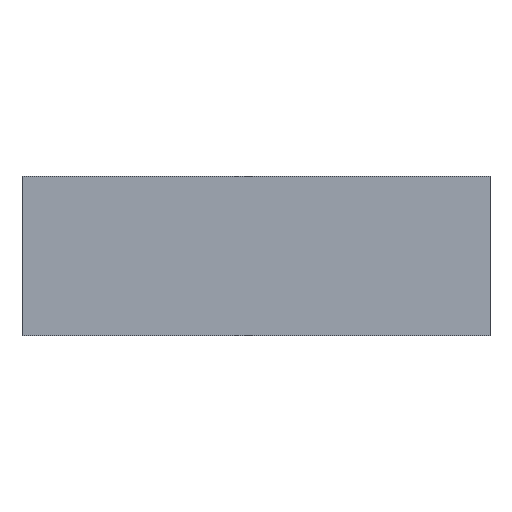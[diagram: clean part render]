
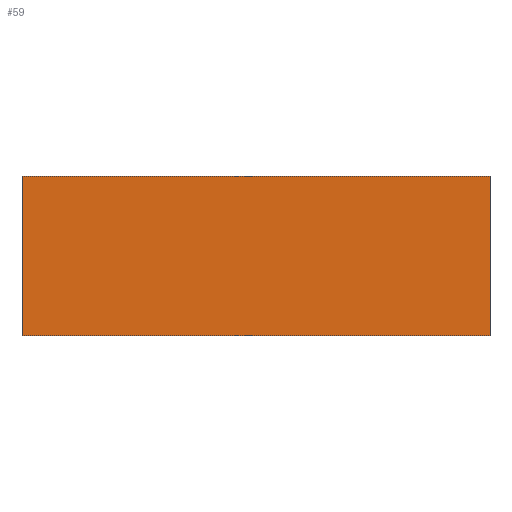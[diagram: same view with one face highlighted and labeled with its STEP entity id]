
A CAD part, top view. The second image highlights one B-rep face of the part: STEP entity #59.
In plain terms, the highlighted planar face has unit normal (0, 0, 1).
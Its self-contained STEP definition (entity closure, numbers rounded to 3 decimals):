
#1 = LINE ( 'NONE', #181, #158 ) ;
#4 = EDGE_CURVE ( 'NONE', #28, #208, #205, .T. ) ;
#10 = CARTESIAN_POINT ( 'NONE',  ( -151.5, 51.5, 4. ) ) ;
#14 = DIRECTION ( 'NONE',  ( 1., 0., 0. ) ) ;
#19 = CARTESIAN_POINT ( 'NONE',  ( -151.5, 51.5, 4. ) ) ;
#23 = AXIS2_PLACEMENT_3D ( 'NONE', #134, #44, #117 ) ;
#25 = CARTESIAN_POINT ( 'NONE',  ( 151.5, 51.5, 4. ) ) ;
#28 = VERTEX_POINT ( 'NONE', #25 ) ;
#44 = DIRECTION ( 'NONE',  ( 0., 0., -1. ) ) ;
#46 = ORIENTED_EDGE ( 'NONE', *, *, #90, .T. ) ;
#49 = VERTEX_POINT ( 'NONE', #157 ) ;
#59 = ADVANCED_FACE ( 'NONE', ( #62 ), #85, .F. ) ;
#62 = FACE_OUTER_BOUND ( 'NONE', #207, .T. ) ;
#70 = DIRECTION ( 'NONE',  ( 0., 1., 0. ) ) ;
#73 = CARTESIAN_POINT ( 'NONE',  ( -151.5, -51.5, 4. ) ) ;
#85 = PLANE ( 'NONE',  #23 ) ;
#86 = VERTEX_POINT ( 'NONE', #110 ) ;
#87 = VECTOR ( 'NONE', #162, 1000. ) ;
#90 = EDGE_CURVE ( 'NONE', #208, #49, #141, .T. ) ;
#99 = VECTOR ( 'NONE', #123, 1000. ) ;
#110 = CARTESIAN_POINT ( 'NONE',  ( 151.5, -51.5, 4. ) ) ;
#117 = DIRECTION ( 'NONE',  ( -1., 0., 0. ) ) ;
#123 = DIRECTION ( 'NONE',  ( -1., 0., 0. ) ) ;
#134 = CARTESIAN_POINT ( 'NONE',  ( 0., 0., 4. ) ) ;
#138 = ORIENTED_EDGE ( 'NONE', *, *, #4, .T. ) ;
#141 = LINE ( 'NONE', #73, #87 ) ;
#147 = EDGE_CURVE ( 'NONE', #49, #86, #233, .T. ) ;
#148 = VECTOR ( 'NONE', #14, 1000. ) ;
#156 = EDGE_CURVE ( 'NONE', #86, #28, #1, .T. ) ;
#157 = CARTESIAN_POINT ( 'NONE',  ( -151.5, -51.5, 4. ) ) ;
#158 = VECTOR ( 'NONE', #70, 1000. ) ;
#162 = DIRECTION ( 'NONE',  ( 0., -1., 0. ) ) ;
#179 = CARTESIAN_POINT ( 'NONE',  ( -151.5, -51.5, 4. ) ) ;
#181 = CARTESIAN_POINT ( 'NONE',  ( 151.5, -51.5, 4. ) ) ;
#205 = LINE ( 'NONE', #10, #99 ) ;
#207 = EDGE_LOOP ( 'NONE', ( #228, #138, #46, #212 ) ) ;
#208 = VERTEX_POINT ( 'NONE', #19 ) ;
#212 = ORIENTED_EDGE ( 'NONE', *, *, #147, .T. ) ;
#228 = ORIENTED_EDGE ( 'NONE', *, *, #156, .T. ) ;
#233 = LINE ( 'NONE', #179, #148 ) ;
